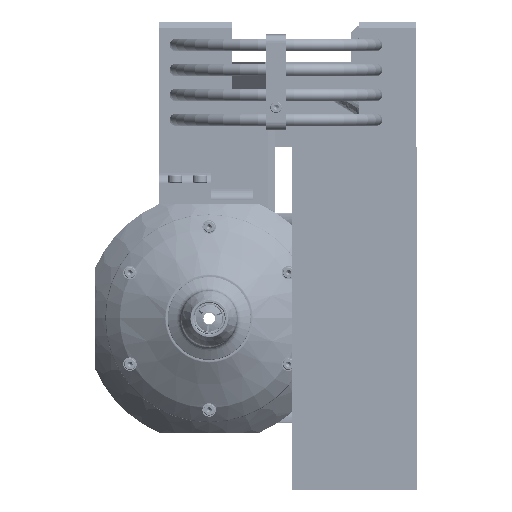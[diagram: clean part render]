
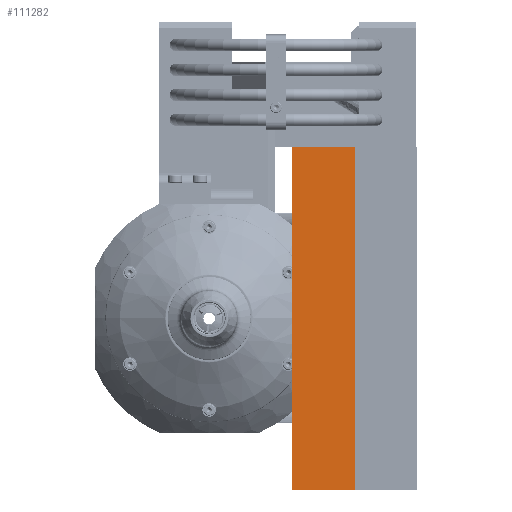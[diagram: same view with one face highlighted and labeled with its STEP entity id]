
A CAD part, left-side view. The second image highlights one B-rep face of the part: STEP entity #111282.
In plain terms, the highlighted planar face has unit normal (-1, 0, 0).
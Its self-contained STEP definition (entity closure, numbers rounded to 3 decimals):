
#17943 = DIRECTION ( 'NONE',  ( 1., 0., 0. ) ) ;
#27083 = DIRECTION ( 'NONE',  ( 0., 0., 1. ) ) ;
#27100 = VECTOR ( 'NONE', #27083, 1000. ) ;
#29942 = DIRECTION ( 'NONE',  ( 0., -1., 0. ) ) ;
#42212 = ORIENTED_EDGE ( 'NONE', *, *, #139385, .T. ) ;
#46850 = VERTEX_POINT ( 'NONE', #62721 ) ;
#47248 = VERTEX_POINT ( 'NONE', #61615 ) ;
#47561 = LINE ( 'NONE', #59551, #27100 ) ;
#51444 = CARTESIAN_POINT ( 'NONE',  ( -225., 48., -82.5 ) ) ;
#52132 = EDGE_CURVE ( 'NONE', #83021, #47248, #66685, .T. ) ;
#57454 = EDGE_CURVE ( 'NONE', #103525, #83021, #47561, .T. ) ;
#59551 = CARTESIAN_POINT ( 'NONE',  ( -225., 60., -82.5 ) ) ;
#61615 = CARTESIAN_POINT ( 'NONE',  ( -225., 30., 82.5 ) ) ;
#62721 = CARTESIAN_POINT ( 'NONE',  ( -225., 30., -82.5 ) ) ;
#66685 = LINE ( 'NONE', #134125, #109274 ) ;
#73549 = CARTESIAN_POINT ( 'NONE',  ( -225., 48., -82.5 ) ) ;
#75346 = ORIENTED_EDGE ( 'NONE', *, *, #57454, .F. ) ;
#78017 = LINE ( 'NONE', #134490, #135933 ) ;
#79850 = DIRECTION ( 'NONE',  ( 0., -1., 0. ) ) ;
#82663 = DIRECTION ( 'NONE',  ( 0., 0., -1. ) ) ;
#83021 = VERTEX_POINT ( 'NONE', #125637 ) ;
#86383 = FACE_OUTER_BOUND ( 'NONE', #92938, .T. ) ;
#92938 = EDGE_LOOP ( 'NONE', ( #42212, #93570, #75346, #140112 ) ) ;
#93570 = ORIENTED_EDGE ( 'NONE', *, *, #52132, .F. ) ;
#99272 = AXIS2_PLACEMENT_3D ( 'NONE', #73549, #17943, #82663 ) ;
#101169 = DIRECTION ( 'NONE',  ( 0., 0., 1. ) ) ;
#102716 = LINE ( 'NONE', #51444, #121439 ) ;
#103525 = VERTEX_POINT ( 'NONE', #112356 ) ;
#109274 = VECTOR ( 'NONE', #79850, 1000. ) ;
#111282 = ADVANCED_FACE ( 'NONE', ( #86383 ), #126899, .F. ) ;
#112356 = CARTESIAN_POINT ( 'NONE',  ( -225., 60., -82.5 ) ) ;
#115078 = EDGE_CURVE ( 'NONE', #103525, #46850, #102716, .T. ) ;
#121439 = VECTOR ( 'NONE', #29942, 1000. ) ;
#125637 = CARTESIAN_POINT ( 'NONE',  ( -225., 60., 82.5 ) ) ;
#126899 = PLANE ( 'NONE',  #99272 ) ;
#134125 = CARTESIAN_POINT ( 'NONE',  ( -225., 48., 82.5 ) ) ;
#134490 = CARTESIAN_POINT ( 'NONE',  ( -225., 30., -82.5 ) ) ;
#135933 = VECTOR ( 'NONE', #101169, 1000. ) ;
#139385 = EDGE_CURVE ( 'NONE', #46850, #47248, #78017, .T. ) ;
#140112 = ORIENTED_EDGE ( 'NONE', *, *, #115078, .T. ) ;
